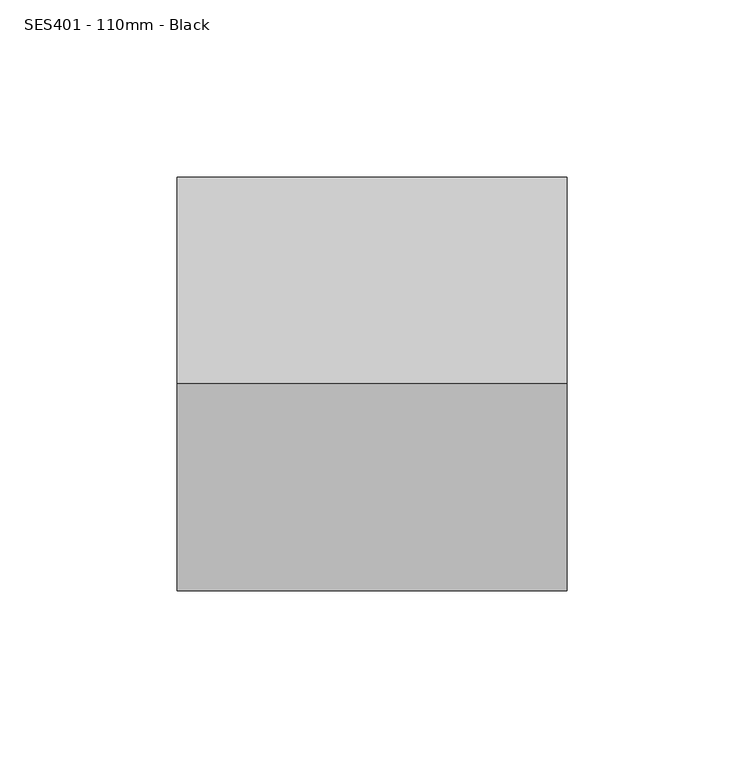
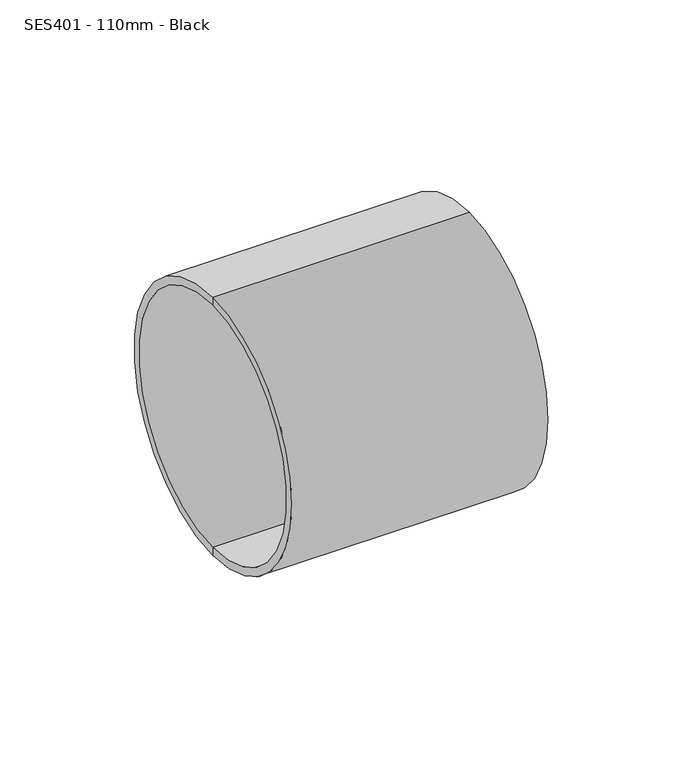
"""IFC4 building model written with IfcOpenShell, lengths in millimetres: pipe fitting geometry, MarleyPlumbingAndDrainage_PipeFitting_DoubleSolventCoupling : SES401 - 110mm - Black."""

import ifcopenshell
import ifcopenshell.guid

model = None  # the IFC model being written
_history = None  # IfcOwnerHistory: only IFC2X3 demands one
_inside = {}  # id of a spatial element -> (the spatial element, [elements in it])
_under = {}  # id of a project, library or spatial element -> (it, [spatial elements below it])
_declared = {}  # id of a project -> (the project, [libraries it declares])
_typed = {}  # id of a type object -> (the type object, [elements of that type])
_made_of = {}  # id of a material, layer set ... -> (it, [elements and type objects made of it])


def new_model(schema):
    """Start an empty IFC model of exactly this schema.

    Asked for "IFC4X3", IfcOpenShell would pick the latest addendum, in which some entities
    have other attributes; the version numbers below select the first issue.
    IFC2X3 requires an IfcOwnerHistory on every rooted entity: one is made here for all.
    """
    global model, _history
    if schema == "IFC4X3":
        model = ifcopenshell.file(schema_version=(4, 3, 0, 0))
    else:
        model = ifcopenshell.file(schema=schema)
    _inside.clear()
    _under.clear()
    _declared.clear()
    _typed.clear()
    _made_of.clear()
    _history = None
    if model.schema == "IFC2X3":
        org = make("IfcOrganization", Name="unknown")
        user = make(
            "IfcPersonAndOrganization",
            ThePerson=make("IfcPerson", FamilyName="unknown"),
            TheOrganization=org,
        )
        app = make(
            "IfcApplication",
            ApplicationDeveloper=org,
            Version="unknown",
            ApplicationFullName="unknown",
            ApplicationIdentifier="unknown",
        )
        _history = make(
            "IfcOwnerHistory",
            OwningUser=user,
            OwningApplication=app,
            ChangeAction="ADDED",
            CreationDate=0,
        )
    return model


def make(cls, **values):
    """One entity of the class cls with the attributes given. An attribute that is None is left unset."""
    return model.create_entity(
        cls, **{name: value for name, value in values.items() if value is not None}
    )


def rooted(cls, **values):
    """An entity with a GlobalId (a new one), such as an element, a storey or a relation."""
    return make(cls, GlobalId=ifcopenshell.guid.new(), OwnerHistory=_history, **values)


def si_unit(unit_type, name, prefix=None):
    """IfcSIUnit, for example si_unit("LENGTHUNIT", "METRE", prefix="MILLI")."""
    return make("IfcSIUnit", UnitType=unit_type, Prefix=prefix, Name=name)


def assignment(units):
    """IfcUnitAssignment: the units of a project."""
    return None if units is None else make("IfcUnitAssignment", Units=units)


def point(xyz):
    """IfcCartesianPoint."""
    return None if xyz is None else make("IfcCartesianPoint", Coordinates=xyz)


def direction(xyz):
    """IfcDirection."""
    return None if xyz is None else make("IfcDirection", DirectionRatios=xyz)


def frame(location, z_axis=None, x_axis=None):
    """IfcAxis2Placement3D, a coordinate frame: its origin and axes. An axis left out is left unset."""
    return make(
        "IfcAxis2Placement3D",
        Location=point(location),
        Axis=direction(z_axis),
        RefDirection=direction(x_axis),
    )


def origin():
    """The frame at (0, 0, 0) with its axes left unset."""
    return frame((0.0, 0.0, 0.0))


def place(relative_to, where):
    """IfcLocalPlacement: puts the frame where relative to a parent placement (None: the world)."""
    return make(
        "IfcLocalPlacement", PlacementRelTo=relative_to, RelativePlacement=where
    )


def context(
    kind, dimensions, precision=None, world=None, true_north=None, identifier=None
):
    """IfcGeometricRepresentationContext, for example the 3D "Model" context."""
    return make(
        "IfcGeometricRepresentationContext",
        ContextIdentifier=identifier,
        ContextType=kind,
        CoordinateSpaceDimension=dimensions,
        Precision=precision,
        WorldCoordinateSystem=world,
        TrueNorth=true_north,
    )


def project(units=None, contexts=None):
    """IfcProject with its units and contexts."""
    return rooted(
        "IfcProject",
        Name="project",
        RepresentationContexts=contexts,
        UnitsInContext=assignment(units),
    )


def spatial(cls, under=None, at=None, **own):
    """A site, building, storey or space (cls), placed at a placement, below another one or the project."""
    s = rooted(cls, ObjectPlacement=at, **own)
    if under is not None:
        _under.setdefault(under.id(), (under, []))[1].append(s)
    return s


def polyline(points):
    """IfcPolyline through the points."""
    return make("IfcPolyline", Points=[point(p) for p in points])


def circle_curve(where, radius):
    """IfcCircle in the frame where."""
    return make("IfcCircle", Position=where, Radius=radius)


def shape(context_of_items, identifier, shape_type, items):
    """IfcShapeRepresentation: the items that make up one representation, for example the "Body"."""
    return make(
        "IfcShapeRepresentation",
        ContextOfItems=context_of_items,
        RepresentationIdentifier=identifier,
        RepresentationType=shape_type,
        Items=items,
    )


def source(mapping_origin, context_of_items, identifier, shape_type, items):
    """IfcRepresentationMap: a shape defined once, which mapped items show again and again."""
    return make(
        "IfcRepresentationMap",
        MappingOrigin=mapping_origin,
        MappedRepresentation=shape(context_of_items, identifier, shape_type, items),
    )


def transform(
    local_origin,
    x_axis=None,
    y_axis=None,
    z_axis=None,
    scale=None,
    scale2=None,
    scale3=None,
    uniform=True,
):
    """IfcCartesianTransformationOperator3D, or its non-uniform kind. x_axis, y_axis, z_axis: its Axis1, 2, 3."""
    if uniform:
        return make(
            "IfcCartesianTransformationOperator3D",
            Axis1=direction(x_axis),
            Axis2=direction(y_axis),
            LocalOrigin=point(local_origin),
            Scale=scale,
            Axis3=direction(z_axis),
        )
    return make(
        "IfcCartesianTransformationOperator3DnonUniform",
        Axis1=direction(x_axis),
        Axis2=direction(y_axis),
        LocalOrigin=point(local_origin),
        Scale=scale,
        Axis3=direction(z_axis),
        Scale2=scale2,
        Scale3=scale3,
    )


def mapped(mapping_source, mapping_target):
    """IfcMappedItem: shows the shape of a source again, moved by a transform."""
    return make(
        "IfcMappedItem", MappingSource=mapping_source, MappingTarget=mapping_target
    )


def made_of(thing, what):
    """Note that an element or type object is made of a material, layer set ...; save() writes the relation."""
    if what is not None:
        _made_of.setdefault(what.id(), (what, []))[1].append(thing)
    return thing


def element(
    cls,
    number,
    at=None,
    inside=None,
    cuts=None,
    type_object=None,
    material=None,
    context=None,
    identifier="Body",
    shape_type=None,
    held_by="IfcProductDefinitionShape",
    body=None,
    shapes=None,
    **own,
):
    """One element of the class cls, such as IfcWall. Its Tag is "e" and its number.

    at: its placement. inside: the storey or other place that contains it. cuts: it is an
    opening in that element (IfcRelVoidsElement). A single representation is given by context,
    identifier, shape_type and body (its items); several are given by shapes. held_by: the class
    of the entity that holds the representations. save() writes the other relations.
    """
    e = rooted(cls, Tag="e%d" % number, ObjectPlacement=at, **own)
    if body is not None:
        shapes = [shape(context, identifier, shape_type, body)]
    if shapes is not None:
        e.Representation = make(held_by, Representations=shapes)
    if inside is not None:
        _inside.setdefault(inside.id(), (inside, []))[1].append(e)
    if cuts is not None:
        rooted(
            "IfcRelVoidsElement", RelatingBuildingElement=cuts, RelatedOpeningElement=e
        )
    if type_object is not None:
        _typed.setdefault(type_object.id(), (type_object, []))[1].append(e)
    return made_of(e, material)


def aggregate(whole, parts):
    """IfcRelAggregates: a whole, such as a stair, and the parts it consists of."""
    return rooted("IfcRelAggregates", RelatingObject=whole, RelatedObjects=parts)


def save(model, path):
    """Write the relations noted so far, then the file.

    IfcRelAggregates (storeys below a building ...), IfcRelContainedInSpatialStructure (elements
    in a storey), IfcRelDefinesByType, IfcRelAssociatesMaterial and IfcRelDeclares: one each for
    every whole, place, type object, material and project.
    """
    for whole, parts in _under.values():
        aggregate(whole, parts)
    for where, things in _inside.values():
        rooted(
            "IfcRelContainedInSpatialStructure",
            RelatedElements=things,
            RelatingStructure=where,
        )
    for kind, things in _typed.values():
        rooted("IfcRelDefinesByType", RelatedObjects=things, RelatingType=kind)
    for what, things in _made_of.values():
        rooted("IfcRelAssociatesMaterial", RelatedObjects=things, RelatingMaterial=what)
    for by, libraries in _declared.values():
        rooted("IfcRelDeclares", RelatingContext=by, RelatedDefinitions=libraries)
    model.write(path)


def plane_surface(at):
    """IfcPlane: the flat surface through the origin of the frame at, square to its z axis."""
    return make("IfcPlane", Position=at)


def cylinder_surface(at, radius):
    """IfcCylindricalSurface: all points at the distance radius from the z axis of the frame at."""
    return make("IfcCylindricalSurface", Position=at, Radius=radius)


def revolved_surface(curve, axis_point, axis_direction):
    """IfcSurfaceOfRevolution: the curve turned about the line through axis_point along axis_direction."""
    return make(
        "IfcSurfaceOfRevolution",
        SweptCurve=make("IfcArbitraryOpenProfileDef", ProfileType="CURVE", Curve=curve),
        AxisPosition=make("IfcAxis1Placement", Location=point(axis_point), Axis=direction(axis_direction)),
    )


def advanced_brep(points, edges, surfaces, faces):
    """IfcAdvancedBrep: a solid bounded by faces that lie on surfaces and meet in shared edges.

    An edge is (start, end): straight between two places in points (the first is 0);
    or (start, end, curve); or (start, end, curve, False) where it runs against its curve.
    A face is (place in surfaces, loops), or (place, loops, False) where it looks against
    its surface's normal. A loop lists edges by number (the first is 1), with a minus sign
    where the edge is run from its end to its start. The first loop is the outer one.
    """
    corners = [point(p) for p in points]
    vertices = [make("IfcVertexPoint", VertexGeometry=c) for c in corners]
    made = []
    for start, end, *more in edges:
        made.append(
            make(
                "IfcEdgeCurve",
                EdgeStart=vertices[start],
                EdgeEnd=vertices[end],
                EdgeGeometry=more[0] if more else make("IfcPolyline", Points=[corners[start], corners[end]]),
                SameSense=more[1] if len(more) > 1 else True,
            )
        )
    hull = []
    for where, loops, *sense in faces:
        bounds = []
        for j, loop in enumerate(loops):
            ring = [make("IfcOrientedEdge", EdgeElement=made[abs(k) - 1], Orientation=k > 0) for k in loop]
            bounds.append(
                make(
                    "IfcFaceOuterBound" if j == 0 else "IfcFaceBound",
                    Bound=make("IfcEdgeLoop", EdgeList=ring),
                    Orientation=True,
                )
            )
        hull.append(make("IfcAdvancedFace", Bounds=bounds, FaceSurface=surfaces[where], SameSense=sense[0] if sense else True))
    return make("IfcAdvancedBrep", Outer=make("IfcClosedShell", CfsFaces=hull))


def ses401_110mm_black_934ae7e3(model_context):
    return source(origin(), model_context, "Body", "AdvancedBrep", [
        advanced_brep(
        [(-69.8253818, 0.0, -58.5), (-69.8253818, 0.0, 58.5), (40.1746182, 0.0, 58.5), (40.1746182, 0.0, -58.5), (40.1746182, 0.0, -55.0), (40.1746182, 0.0, 55.0), (-13.0753818, 0.0, 55.0), (-13.0753818, 0.0, -55.0), (-13.0753818, 0.0, 0.0), (-69.8253818, 0.0, -55.0), (-69.8253818, 0.0, 55.0), (-16.5753818, 0.0, -55.0), (-16.5753818, 0.0, 55.0), (-16.5753818, 0.0, 0.0)],
        [
            (0, 1, circle_curve(frame((-69.8253818, 0.0, 0.0), z_axis=(1.0, 0.0, 0.0), x_axis=(0.0, 0.0, 1.0)), 58.5)),
            (1, 2),
            (2, 3, circle_curve(frame((40.1746182, 0.0, 0.0), z_axis=(-1.0, 0.0, 0.0), x_axis=(0.0, 0.0, 1.0)), 58.5)),
            (3, 0),
            (1, 0, circle_curve(frame((-69.8253818, 0.0, 0.0), z_axis=(1.0, 0.0, 0.0), x_axis=(0.0, 0.0, 1.0)), 58.5)),
            (3, 2, circle_curve(frame((40.1746182, 0.0, 0.0), z_axis=(-1.0, 0.0, 0.0), x_axis=(0.0, 0.0, 1.0)), 58.5)),
            (4, 5, circle_curve(frame((40.1746182, 0.0, 0.0), z_axis=(1.0, 0.0, 0.0), x_axis=(0.0, 0.0, 1.0)), 55.0)),
            (5, 6),
            (6, 7, circle_curve(frame((-13.0753818, 0.0, 0.0), z_axis=(-1.0, 0.0, 0.0), x_axis=(0.0, 0.0, 1.0)), 55.0)),
            (7, 4),
            (5, 4, circle_curve(frame((40.1746182, 0.0, 0.0), z_axis=(1.0, 0.0, 0.0), x_axis=(0.0, 0.0, 1.0)), 55.0)),
            (7, 6, circle_curve(frame((-13.0753818, 0.0, 0.0), z_axis=(-1.0, 0.0, 0.0), x_axis=(0.0, 0.0, 1.0)), 55.0)),
            (2, 5),
            (4, 3),
            (6, 8),
            (8, 7),
            (9, 10, circle_curve(frame((-69.8253818, 0.0, 0.0), z_axis=(1.0, 0.0, 0.0), x_axis=(0.0, 0.0, 1.0)), 55.0)),
            (10, 1),
            (0, 9),
            (10, 9, circle_curve(frame((-69.8253818, 0.0, 0.0), z_axis=(1.0, 0.0, 0.0), x_axis=(0.0, 0.0, 1.0)), 55.0)),
            (11, 12, circle_curve(frame((-16.5753818, 0.0, 0.0), z_axis=(1.0, 0.0, 0.0), x_axis=(0.0, 0.0, 1.0)), 55.0)),
            (12, 10),
            (9, 11),
            (12, 11, circle_curve(frame((-16.5753818, 0.0, 0.0), z_axis=(1.0, 0.0, 0.0), x_axis=(0.0, 0.0, 1.0)), 55.0)),
            (13, 12),
            (11, 13),
        ],
        [
            cylinder_surface(frame((-1207.7325039, 0.0, 0.0), z_axis=(-1.0, 0.0, 0.0), x_axis=(0.0, 0.0, 1.0)), 58.5),
            revolved_surface(polyline([(-13.07538180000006, 0.0, 55.0), (40.17461819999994, 0.0, 55.0)]), (-1207.7325039, 0.0, 0.0), (-1.0, 0.0, 0.0)),
            plane_surface(frame((40.1746182, 0.0, 0.0), z_axis=(1.0, 0.0, 0.0), x_axis=(0.0, 0.0, 1.0))),
            plane_surface(frame((-13.0753818, 0.0, 0.0), z_axis=(1.0, 0.0, 0.0), x_axis=(0.0, 0.0, 1.0))),
            plane_surface(frame((-69.8253818, 0.0, 0.0), z_axis=(-1.0, 0.0, 0.0), x_axis=(0.0, 0.0, 1.0))),
            revolved_surface(polyline([(-69.82538180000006, 0.0, 55.0), (-16.57538180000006, 0.0, 55.0)]), (-1207.7325039, 0.0, 0.0), (-1.0, 0.0, 0.0)),
            plane_surface(frame((-16.5753818, 0.0, 0.0), z_axis=(-1.0, 0.0, 0.0), x_axis=(0.0, 0.0, 1.0))),
        ],
        [
            (0, [[1, 2, 3, 4]]),
            (0, [[5, -4, 6, -2]]),
            (1, [[7, 8, 9, 10]]),
            (1, [[11, -10, 12, -8]]),
            (2, [[-3, 13, -7, 14]]),
            (2, [[-6, -14, -11, -13]]),
            (3, [[-9, 15, 16]]),
            (3, [[-12, -16, -15]]),
            (4, [[17, 18, -1, 19]]),
            (4, [[20, -19, -5, -18]]),
            (5, [[21, 22, -17, 23]]),
            (5, [[24, -23, -20, -22]]),
            (6, [[25, -21, 26]]),
            (6, [[-26, -24, -25]]),
        ],
    ),
    ])


if __name__ == "__main__":
    model = new_model("IFC4")
    model_context = context("Model", 3, world=origin())
    ifc_project = project(units=[si_unit("LENGTHUNIT", "METRE", prefix="MILLI")], contexts=[model_context])
    site = spatial("IfcSite", under=ifc_project)
    building = spatial("IfcBuilding", under=site)
    placement = place(None, origin())
    ses401_110mm_black_shape = ses401_110mm_black_934ae7e3(model_context)
    element("IfcPipeFitting", 1, ObjectType="MarleyPlumbingAndDrainage_PipeFitting_DoubleSolventCoupling : SES401 - 110mm - Black", at=placement, inside=building, context=model_context, shape_type="MappedRepresentation", body=[
        mapped(ses401_110mm_black_shape, transform((0.0, 0.0, 0.0), x_axis=(1.0, 0.0, 0.0), y_axis=(0.0, 1.0, 0.0), z_axis=(0.0, 0.0, 1.0))),
    ])
    save(model, "model.ifc")
